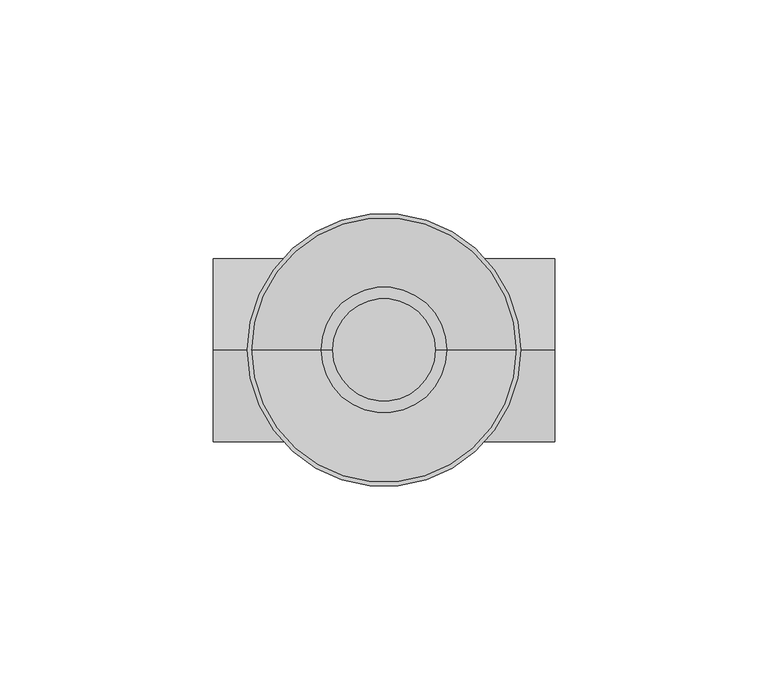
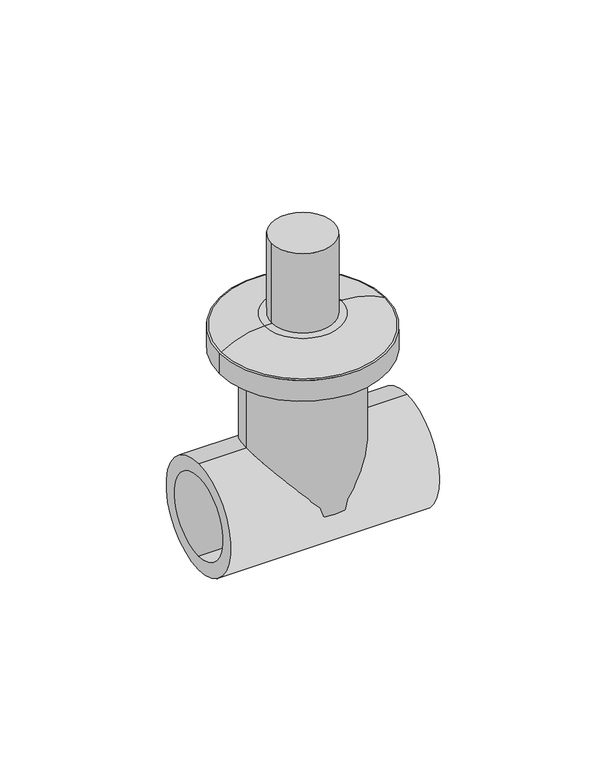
"""IFC4 building model written with IfcOpenShell, lengths in millimetres: valve geometry, EGB_VASEN_ PPR_Valvula oculta WXR870 : Válvula oculta WXR870."""

from ifc_helpers import new_model, si_unit, point, frame, origin, origin_with_axes, origin_2d, place, context, project, spatial, circle_curve, ellipse_curve, trimmed, segment, composite_curve, outline, extrude, source, transform, mapped, element, save
from ifc_brep_helpers import plane_surface, revolved_surface, advanced_brep


def valve_022d8bc9(model_context):
    return source(origin(), model_context, "Body", "SolidModel", [
        extrude(outline(composite_curve([segment(trimmed(circle_curve(origin_2d(), 32.0), [point((-32.0, 0.0))], [point((32.0, 0.0))], False, "CARTESIAN"), True, "CONTINUOUS"), segment(trimmed(circle_curve(origin_2d(), 32.0), [point((32.0, 0.0))], [point((-32.0, 0.0))], False, "CARTESIAN"), True, "CONTINUOUS")], self_intersect=False)), frame((0.0, 0.0, 55.1), z_axis=(0.0, 0.0, 1.0), x_axis=(1.0, 0.0, 0.0)), (0.0, 0.0, 1.0), 8.4),
        advanced_brep(
        [(0.0, 0.0, 63.5), (-32.0, 0.0, 63.5), (32.0, 0.0, 63.5), (14.7160328, 0.0, 68.5), (-14.7160328, 0.0, 68.5), (0.0, 0.0, 68.5)],
        [
            (0, 1),
            (1, 2, circle_curve(frame((0.0, 0.0, 63.5), z_axis=(0.0, 0.0, -1.0), x_axis=(-1.0, 0.0, 0.0)), 32.0)),
            (2, 0),
            (2, 1, circle_curve(frame((0.0, 0.0, 63.5), z_axis=(0.0, 0.0, -1.0), x_axis=(-1.0, 0.0, 0.0)), 32.0)),
            (3, 4, circle_curve(frame((0.0, 0.0, 68.5), z_axis=(0.0, 0.0, 1.0), x_axis=(-1.0, 0.0, 0.0)), 14.7160328)),
            (4, 5),
            (5, 3),
            (4, 3, circle_curve(frame((0.0, 0.0, 68.5), z_axis=(0.0, 0.0, 1.0), x_axis=(-1.0, 0.0, 0.0)), 14.7160328)),
            (1, 4, circle_curve(frame((-14.7160328, 0.0, 36.1264477), z_axis=(0.0, 1.0, 0.0), x_axis=(1.0, 0.0, 0.0)), 32.3735523)),
            (3, 2, circle_curve(frame((14.7160328, 0.0, 36.1264477), z_axis=(0.0, 1.0, 0.0), x_axis=(-1.0, 0.0, 0.0)), 32.3735523)),
        ],
        [
            plane_surface(frame((0.0, 0.0, 63.5), z_axis=(0.0, 0.0, -1.0), x_axis=(-1.0, 0.0, 0.0))),
            plane_surface(frame((0.0, 0.0, 68.5), z_axis=(0.0, 0.0, 1.0), x_axis=(-1.0, 0.0, 0.0))),
            revolved_surface(trimmed(ellipse_curve(frame((-14.7160328, 0.0, 36.1264477), z_axis=(0.0, -1.0, 0.0), x_axis=(1.0, 0.0, 0.0)), 32.3735523, 32.3735523), [point((-14.7160328, 0.0, 68.5))], [point((-32.0, 0.0, 63.5))], True, "CARTESIAN"), (0.0, 0.0, 68.5), (0.0, 0.0, -1.0)),
        ],
        [
            (0, [[1, 2, 3]]),
            (0, [[-3, 4, -1]]),
            (1, [[5, 6, 7]]),
            (1, [[8, -7, -6]]),
            (2, [[-2, 9, -5, 10]]),
            (2, [[-4, -10, -8, -9]]),
        ],
    ),
        extrude(outline(composite_curve([segment(trimmed(circle_curve(origin_2d(), 12.0), [point((-12.0, 0.0))], [point((12.0, 0.0))], False, "CARTESIAN"), True, "CONTINUOUS"), segment(trimmed(circle_curve(origin_2d(), 12.0), [point((12.0, 0.0))], [point((-12.0, 0.0))], False, "CARTESIAN"), True, "CONTINUOUS")], self_intersect=False)), frame((0.0, 0.0, 68.5), z_axis=(0.0, 0.0, 1.0), x_axis=(1.0, 0.0, 0.0)), (0.0, 0.0, 1.0), 32.5),
        extrude(outline(composite_curve([segment(trimmed(circle_curve(origin_2d(), 21.5), [point((-21.5, 0.0))], [point((21.5, 0.0))], False, "CARTESIAN"), True, "CONTINUOUS"), segment(trimmed(circle_curve(origin_2d(), 21.5), [point((21.5, 0.0))], [point((-21.5, 0.0))], False, "CARTESIAN"), True, "CONTINUOUS")], self_intersect=False)), origin_with_axes(), (0.0, 0.0, 1.0), 56.0),
        extrude(outline(composite_curve([segment(trimmed(circle_curve(origin_2d(), 21.5), [point((0.0, -21.5))], [point((0.0, 21.5))], False, "CARTESIAN"), True, "CONTINUOUS"), segment(trimmed(circle_curve(origin_2d(), 21.5), [point((0.0, 21.5))], [point((0.0, -21.5))], False, "CARTESIAN"), True, "CONTINUOUS")], self_intersect=False), holes=[composite_curve([segment(trimmed(circle_curve(origin_2d(), 16.0), [point((0.0, -16.0))], [point((0.0, 16.0))], True, "CARTESIAN"), True, "CONTINUOUS"), segment(trimmed(circle_curve(origin_2d(), 16.0), [point((0.0, 16.0))], [point((0.0, -16.0))], True, "CARTESIAN"), True, "CONTINUOUS")], self_intersect=False)]), frame((-40.0, 0.0, 0.0), z_axis=(1.0, 0.0, 0.0), x_axis=(0.0, 1.0, 0.0)), (0.0, 0.0, 1.0), 80.0),
    ])


if __name__ == "__main__":
    model = new_model("IFC4")
    model_context = context("Model", 3, world=origin())
    ifc_project = project(units=[si_unit("LENGTHUNIT", "METRE", prefix="MILLI")], contexts=[model_context])
    site = spatial("IfcSite", under=ifc_project)
    building = spatial("IfcBuilding", under=site)
    placement = place(None, origin())
    valve_shape = valve_022d8bc9(model_context)
    element("IfcValve", 1, ObjectType="EGB_VASEN_ PPR_Valvula oculta WXR870 : Válvula oculta WXR870", at=placement, inside=building, context=model_context, shape_type="MappedRepresentation", body=[
        mapped(valve_shape, transform((0.0, 0.0, 0.0), x_axis=(1.0, 0.0, 0.0), y_axis=(0.0, 1.0, 0.0), z_axis=(0.0, 0.0, 1.0))),
    ])
    save(model, "model.ifc")
